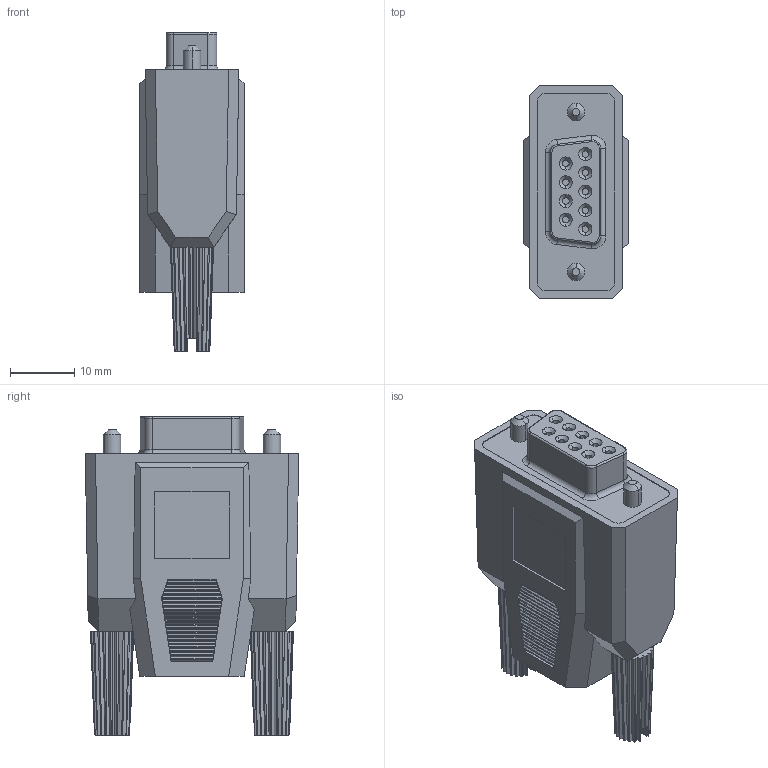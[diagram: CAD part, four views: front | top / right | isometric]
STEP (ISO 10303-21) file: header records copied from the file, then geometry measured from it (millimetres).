
FILE_DESCRIPTION((''),'2;1');
FILE_NAME('CU_DSUB_CABLE_BACKSHELL_9_PIN','2007-06-20T',('jpearson'),(''),'PRO/ENGINEER BY PARAMETRIC TECHNOLOGY CORPORATION, 2006080','PRO/ENGINEER BY PARAMETRIC TECHNOLOGY CORPORATION, 2006080','');
FILE_SCHEMA(('CONFIG_CONTROL_DESIGN'));
Length unit declared in the file: inch
Products named in the file (1): CU_DSUB_CABLE_BACKSHELL_9_PIN
Bounding box: 16.26 x 33.27 x 49.71 mm (x, y, z)
Volume: 16629.8 mm3; surface area: 5249.9 mm2
Topology: 1 solids, 1 shells, 454 faces, 1223 edges, 788 vertices
Faces by surface type: plane 306, cylinder 78, cone 62, torus 8
Entity records: 14308 total; most frequent: CARTESIAN_POINT 3086, ORIENTED_EDGE 2446, DIRECTION 2144, EDGE_CURVE 1223, VECTOR 856, LINE 856, VERTEX_POINT 788, AXIS2_PLACEMENT_3D 644
